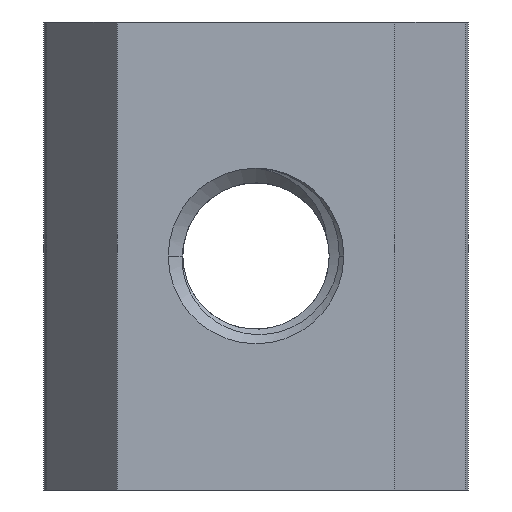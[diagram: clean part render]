
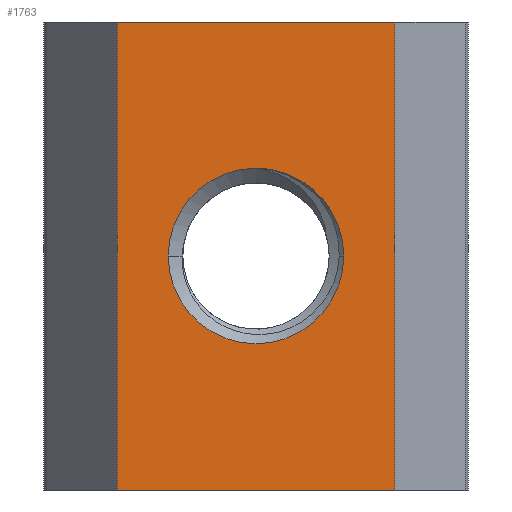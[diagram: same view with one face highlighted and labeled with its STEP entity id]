
A CAD part, front view. The second image highlights one B-rep face of the part: STEP entity #1763.
In plain terms, the highlighted planar face has unit normal (0, -1, 0).
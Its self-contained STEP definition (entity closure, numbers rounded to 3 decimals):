
#39 = DIRECTION ( 'NONE',  ( -1., 0., 0. ) ) ;
#40 = VECTOR ( 'NONE', #407, 1000. ) ;
#53 = VECTOR ( 'NONE', #847, 1000. ) ;
#97 = CARTESIAN_POINT ( 'NONE',  ( 0., 0., 0. ) ) ;
#132 = EDGE_CURVE ( 'NONE', #491, #950, #873, .T. ) ;
#196 = FACE_BOUND ( 'NONE', #567, .T. ) ;
#212 = ORIENTED_EDGE ( 'NONE', *, *, #503, .T. ) ;
#270 = ORIENTED_EDGE ( 'NONE', *, *, #716, .F. ) ;
#271 = DIRECTION ( 'NONE',  ( -1., 0., 0. ) ) ;
#306 = LINE ( 'NONE', #1971, #1114 ) ;
#319 = CARTESIAN_POINT ( 'NONE',  ( 0., 0., 0. ) ) ;
#407 = DIRECTION ( 'NONE',  ( 1., 0., 0. ) ) ;
#432 = EDGE_CURVE ( 'NONE', #1036, #590, #1362, .T. ) ;
#483 = DIRECTION ( 'NONE',  ( -1., 0., 0. ) ) ;
#491 = VERTEX_POINT ( 'NONE', #1854 ) ;
#503 = EDGE_CURVE ( 'NONE', #950, #1572, #2063, .T. ) ;
#567 = EDGE_LOOP ( 'NONE', ( #1898, #770, #212 ) ) ;
#590 = VERTEX_POINT ( 'NONE', #1585 ) ;
#629 = CARTESIAN_POINT ( 'NONE',  ( -4.75, 0., -8. ) ) ;
#631 = DIRECTION ( 'NONE',  ( 0., 1., 0. ) ) ;
#632 = LINE ( 'NONE', #1967, #53 ) ;
#701 = CARTESIAN_POINT ( 'NONE',  ( -3., 0., 0. ) ) ;
#716 = EDGE_CURVE ( 'NONE', #1625, #1036, #632, .T. ) ;
#770 = ORIENTED_EDGE ( 'NONE', *, *, #132, .T. ) ;
#847 = DIRECTION ( 'NONE',  ( 1., 0., 0. ) ) ;
#856 = PLANE ( 'NONE',  #1434 ) ;
#861 = LINE ( 'NONE', #1542, #40 ) ;
#873 = CIRCLE ( 'NONE', #1657, 3. ) ;
#877 = DIRECTION ( 'NONE',  ( 0., 0., -1. ) ) ;
#887 = CIRCLE ( 'NONE', #1565, 3. ) ;
#950 = VERTEX_POINT ( 'NONE', #701 ) ;
#958 = CARTESIAN_POINT ( 'NONE',  ( -4.75, 0., 8. ) ) ;
#1003 = DIRECTION ( 'NONE',  ( 0., 0., -1. ) ) ;
#1010 = DIRECTION ( 'NONE',  ( 0., 1., 0. ) ) ;
#1023 = AXIS2_PLACEMENT_3D ( 'NONE', #97, #1241, #271 ) ;
#1036 = VERTEX_POINT ( 'NONE', #1319 ) ;
#1114 = VECTOR ( 'NONE', #1003, 1000. ) ;
#1215 = CARTESIAN_POINT ( 'NONE',  ( 4.75, 0., 8. ) ) ;
#1241 = DIRECTION ( 'NONE',  ( 0., 1., 0. ) ) ;
#1319 = CARTESIAN_POINT ( 'NONE',  ( 4.75, 0., 8. ) ) ;
#1338 = EDGE_CURVE ( 'NONE', #1572, #491, #887, .T. ) ;
#1362 = LINE ( 'NONE', #1215, #1702 ) ;
#1434 = AXIS2_PLACEMENT_3D ( 'NONE', #1978, #1010, #39 ) ;
#1451 = DIRECTION ( 'NONE',  ( 0., 1., 0. ) ) ;
#1525 = VERTEX_POINT ( 'NONE', #629 ) ;
#1542 = CARTESIAN_POINT ( 'NONE',  ( 4.75, 0., -8. ) ) ;
#1565 = AXIS2_PLACEMENT_3D ( 'NONE', #1610, #631, #1757 ) ;
#1568 = EDGE_LOOP ( 'NONE', ( #2083, #2035, #270, #1680 ) ) ;
#1572 = VERTEX_POINT ( 'NONE', #1756 ) ;
#1585 = CARTESIAN_POINT ( 'NONE',  ( 4.75, 0., -8. ) ) ;
#1610 = CARTESIAN_POINT ( 'NONE',  ( 0., 0., 0. ) ) ;
#1625 = VERTEX_POINT ( 'NONE', #958 ) ;
#1657 = AXIS2_PLACEMENT_3D ( 'NONE', #319, #1451, #483 ) ;
#1666 = EDGE_CURVE ( 'NONE', #1625, #1525, #306, .T. ) ;
#1680 = ORIENTED_EDGE ( 'NONE', *, *, #1666, .T. ) ;
#1702 = VECTOR ( 'NONE', #877, 1000. ) ;
#1756 = CARTESIAN_POINT ( 'NONE',  ( 0., 0., 3. ) ) ;
#1757 = DIRECTION ( 'NONE',  ( -1., 0., 0. ) ) ;
#1763 = ADVANCED_FACE ( 'NONE', ( #196, #1911 ), #856, .F. ) ;
#1854 = CARTESIAN_POINT ( 'NONE',  ( 3., 0., 0. ) ) ;
#1898 = ORIENTED_EDGE ( 'NONE', *, *, #1338, .T. ) ;
#1911 = FACE_OUTER_BOUND ( 'NONE', #1568, .T. ) ;
#1967 = CARTESIAN_POINT ( 'NONE',  ( 4.75, 0., 8. ) ) ;
#1971 = CARTESIAN_POINT ( 'NONE',  ( -4.75, 0., 8. ) ) ;
#1973 = EDGE_CURVE ( 'NONE', #1525, #590, #861, .T. ) ;
#1978 = CARTESIAN_POINT ( 'NONE',  ( 4.75, 0., 8. ) ) ;
#2035 = ORIENTED_EDGE ( 'NONE', *, *, #432, .F. ) ;
#2063 = CIRCLE ( 'NONE', #1023, 3. ) ;
#2083 = ORIENTED_EDGE ( 'NONE', *, *, #1973, .T. ) ;
